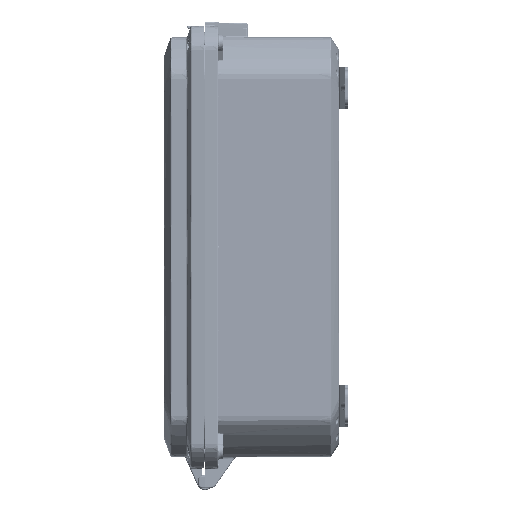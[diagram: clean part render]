
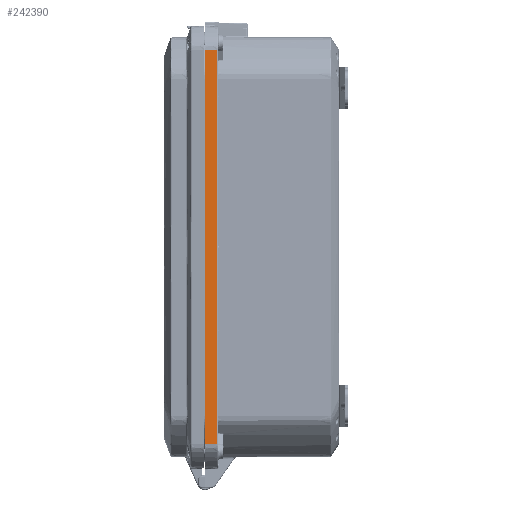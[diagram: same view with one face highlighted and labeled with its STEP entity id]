
A CAD part, left-side view. The second image highlights one B-rep face of the part: STEP entity #242390.
In plain terms, the highlighted planar face has unit normal (-0.999, -0.035, 0).
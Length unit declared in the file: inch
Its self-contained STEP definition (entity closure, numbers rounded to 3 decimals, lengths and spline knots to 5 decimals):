
#3103 = DIRECTION ( 'NONE',  ( -0.999, -0.035, 0. ) ) ;
#4169 = VECTOR ( 'NONE', #164655, 39.37008 ) ;
#9600 = DIRECTION ( 'NONE',  ( 0., 0., 1. ) ) ;
#10528 = DIRECTION ( 'NONE',  ( 0.035, -0.999, 0. ) ) ;
#11331 = DIRECTION ( 'NONE',  ( 0.035, -0.999, 0. ) ) ;
#42189 = CARTESIAN_POINT ( 'NONE',  ( -7.60772, -0.35174, 5.89046 ) ) ;
#48729 = CARTESIAN_POINT ( 'NONE',  ( -7.62, 0., -5.89046 ) ) ;
#50856 = DIRECTION ( 'NONE',  ( 0.035, -0.999, 0. ) ) ;
#51763 = EDGE_LOOP ( 'NONE', ( #196941, #80113, #62942, #252678 ) ) ;
#62942 = ORIENTED_EDGE ( 'NONE', *, *, #128725, .F. ) ;
#67805 = FACE_OUTER_BOUND ( 'NONE', #51763, .T. ) ;
#80113 = ORIENTED_EDGE ( 'NONE', *, *, #117468, .F. ) ;
#80235 = VERTEX_POINT ( 'NONE', #48729 ) ;
#80838 = CARTESIAN_POINT ( 'NONE',  ( -7.60772, -0.35174, -5.89046 ) ) ;
#116724 = VERTEX_POINT ( 'NONE', #80838 ) ;
#117468 = EDGE_CURVE ( 'NONE', #211078, #245288, #184317, .T. ) ;
#119945 = AXIS2_PLACEMENT_3D ( 'NONE', #156346, #3103, #50856 ) ;
#128725 = EDGE_CURVE ( 'NONE', #80235, #211078, #181634, .T. ) ;
#147296 = VECTOR ( 'NONE', #9600, 39.37008 ) ;
#156346 = CARTESIAN_POINT ( 'NONE',  ( -7.62, 0., 6.3 ) ) ;
#164655 = DIRECTION ( 'NONE',  ( 0., 0., 1. ) ) ;
#181634 = LINE ( 'NONE', #185770, #4169 ) ;
#184317 = LINE ( 'NONE', #244810, #221896 ) ;
#185770 = CARTESIAN_POINT ( 'NONE',  ( -7.62, 0., 6.3 ) ) ;
#196941 = ORIENTED_EDGE ( 'NONE', *, *, #213201, .T. ) ;
#200912 = CARTESIAN_POINT ( 'NONE',  ( -7.60772, -0.35174, 5.89046 ) ) ;
#211078 = VERTEX_POINT ( 'NONE', #277376 ) ;
#213201 = EDGE_CURVE ( 'NONE', #116724, #245288, #245818, .T. ) ;
#216815 = VECTOR ( 'NONE', #10528, 39.37008 ) ;
#221896 = VECTOR ( 'NONE', #11331, 39.37008 ) ;
#222364 = PLANE ( 'NONE',  #119945 ) ;
#242390 = ADVANCED_FACE ( 'NONE', ( #67805 ), #222364, .T. ) ;
#244027 = CARTESIAN_POINT ( 'NONE',  ( -7.62, 0., -5.89046 ) ) ;
#244810 = CARTESIAN_POINT ( 'NONE',  ( -7.62, 0., 5.89046 ) ) ;
#245288 = VERTEX_POINT ( 'NONE', #42189 ) ;
#245385 = LINE ( 'NONE', #244027, #216815 ) ;
#245818 = LINE ( 'NONE', #200912, #147296 ) ;
#252678 = ORIENTED_EDGE ( 'NONE', *, *, #258948, .T. ) ;
#258948 = EDGE_CURVE ( 'NONE', #80235, #116724, #245385, .T. ) ;
#277376 = CARTESIAN_POINT ( 'NONE',  ( -7.62, 0., 5.89046 ) ) ;
